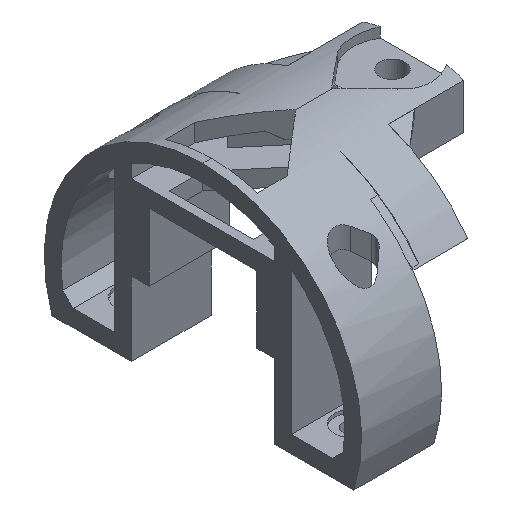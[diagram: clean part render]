
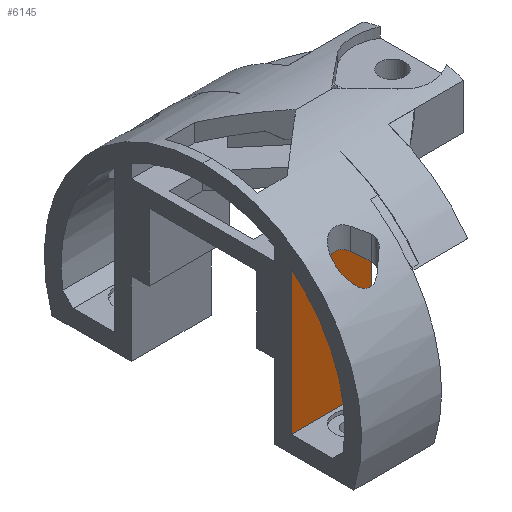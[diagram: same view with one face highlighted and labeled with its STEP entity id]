
A CAD part, isometric view. The second image highlights one B-rep face of the part: STEP entity #6145.
In plain terms, the highlighted planar face has unit normal (0, -1, 0).
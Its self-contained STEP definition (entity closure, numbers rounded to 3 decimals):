
#180 = PLANE('',#181);
#181 = AXIS2_PLACEMENT_3D('',#182,#183,#184);
#182 = CARTESIAN_POINT('',(80.,0.,0.));
#183 = DIRECTION('',(1.,0.,0.));
#184 = DIRECTION('',(-0.,0.,1.));
#611 = PLANE('',#612);
#612 = AXIS2_PLACEMENT_3D('',#613,#614,#615);
#613 = CARTESIAN_POINT('',(96.,0.,0.));
#614 = DIRECTION('',(1.,0.,0.));
#615 = DIRECTION('',(-0.,0.,1.));
#2108 = PLANE('',#2109);
#2109 = AXIS2_PLACEMENT_3D('',#2110,#2111,#2112);
#2110 = CARTESIAN_POINT('',(80.,8.5,11.));
#2111 = DIRECTION('',(0.,0.,1.));
#2112 = DIRECTION('',(1.,0.,-0.));
#2687 = VERTEX_POINT('',#2688);
#2688 = CARTESIAN_POINT('',(89.5,-10.5,11.));
#2702 = PLANE('',#2703);
#2703 = AXIS2_PLACEMENT_3D('',#2704,#2705,#2706);
#2704 = CARTESIAN_POINT('',(89.5,0.,0.));
#2705 = DIRECTION('',(1.,0.,0.));
#2706 = DIRECTION('',(-0.,0.,1.));
#2714 = EDGE_CURVE('',#2687,#2715,#2717,.T.);
#2715 = VERTEX_POINT('',#2716);
#2716 = CARTESIAN_POINT('',(96.,-10.5,11.));
#2717 = SURFACE_CURVE('',#2718,(#2722,#2729),.PCURVE_S1.);
#2718 = LINE('',#2719,#2720);
#2719 = CARTESIAN_POINT('',(80.,-10.5,11.));
#2720 = VECTOR('',#2721,1.);
#2721 = DIRECTION('',(1.,0.,-0.));
#2722 = PCURVE('',#2108,#2723);
#2723 = DEFINITIONAL_REPRESENTATION('',(#2724),#2728);
#2724 = LINE('',#2725,#2726);
#2725 = CARTESIAN_POINT('',(0.,-19.));
#2726 = VECTOR('',#2727,1.);
#2727 = DIRECTION('',(1.,0.));
#2728 = ( GEOMETRIC_REPRESENTATION_CONTEXT(2) 
PARAMETRIC_REPRESENTATION_CONTEXT() REPRESENTATION_CONTEXT('2D SPACE',''
  ) );
#2729 = PCURVE('',#2730,#2735);
#2730 = PLANE('',#2731);
#2731 = AXIS2_PLACEMENT_3D('',#2732,#2733,#2734);
#2732 = CARTESIAN_POINT('',(80.,-10.5,11.));
#2733 = DIRECTION('',(-0.,1.,0.));
#2734 = DIRECTION('',(0.,0.,1.));
#2735 = DEFINITIONAL_REPRESENTATION('',(#2736),#2740);
#2736 = LINE('',#2737,#2738);
#2737 = CARTESIAN_POINT('',(0.,0.));
#2738 = VECTOR('',#2739,1.);
#2739 = DIRECTION('',(0.,1.));
#2740 = ( GEOMETRIC_REPRESENTATION_CONTEXT(2) 
PARAMETRIC_REPRESENTATION_CONTEXT() REPRESENTATION_CONTEXT('2D SPACE',''
  ) );
#6145 = ADVANCED_FACE('',(#6146),#2730,.F.);
#6146 = FACE_BOUND('',#6147,.F.);
#6147 = EDGE_LOOP('',(#6148,#6178,#6199,#6200,#6223,#6250));
#6148 = ORIENTED_EDGE('',*,*,#6149,.T.);
#6149 = EDGE_CURVE('',#6150,#6152,#6154,.T.);
#6150 = VERTEX_POINT('',#6151);
#6151 = CARTESIAN_POINT('',(80.,-10.5,13.178));
#6152 = VERTEX_POINT('',#6153);
#6153 = CARTESIAN_POINT('',(96.,-10.5,13.178));
#6154 = SURFACE_CURVE('',#6155,(#6159,#6166),.PCURVE_S1.);
#6155 = LINE('',#6156,#6157);
#6156 = CARTESIAN_POINT('',(80.,-10.5,13.178));
#6157 = VECTOR('',#6158,1.);
#6158 = DIRECTION('',(1.,0.,0.));
#6159 = PCURVE('',#2730,#6160);
#6160 = DEFINITIONAL_REPRESENTATION('',(#6161),#6165);
#6161 = LINE('',#6162,#6163);
#6162 = CARTESIAN_POINT('',(2.178,0.));
#6163 = VECTOR('',#6164,1.);
#6164 = DIRECTION('',(0.,1.));
#6165 = ( GEOMETRIC_REPRESENTATION_CONTEXT(2) 
PARAMETRIC_REPRESENTATION_CONTEXT() REPRESENTATION_CONTEXT('2D SPACE',''
  ) );
#6166 = PCURVE('',#6167,#6172);
#6167 = CYLINDRICAL_SURFACE('',#6168,16.85);
#6168 = AXIS2_PLACEMENT_3D('',#6169,#6170,#6171);
#6169 = CARTESIAN_POINT('',(79.,0.,0.));
#6170 = DIRECTION('',(1.,0.,0.));
#6171 = DIRECTION('',(-0.,0.,1.));
#6172 = DEFINITIONAL_REPRESENTATION('',(#6173),#6177);
#6173 = LINE('',#6174,#6175);
#6174 = CARTESIAN_POINT('',(0.673,1.));
#6175 = VECTOR('',#6176,1.);
#6176 = DIRECTION('',(0.,1.));
#6177 = ( GEOMETRIC_REPRESENTATION_CONTEXT(2) 
PARAMETRIC_REPRESENTATION_CONTEXT() REPRESENTATION_CONTEXT('2D SPACE',''
  ) );
#6178 = ORIENTED_EDGE('',*,*,#6179,.T.);
#6179 = EDGE_CURVE('',#6152,#2715,#6180,.T.);
#6180 = SURFACE_CURVE('',#6181,(#6185,#6192),.PCURVE_S1.);
#6181 = LINE('',#6182,#6183);
#6182 = CARTESIAN_POINT('',(96.,-10.5,13.178));
#6183 = VECTOR('',#6184,1.);
#6184 = DIRECTION('',(0.,0.,-1.));
#6185 = PCURVE('',#2730,#6186);
#6186 = DEFINITIONAL_REPRESENTATION('',(#6187),#6191);
#6187 = LINE('',#6188,#6189);
#6188 = CARTESIAN_POINT('',(2.178,16.));
#6189 = VECTOR('',#6190,1.);
#6190 = DIRECTION('',(-1.,0.));
#6191 = ( GEOMETRIC_REPRESENTATION_CONTEXT(2) 
PARAMETRIC_REPRESENTATION_CONTEXT() REPRESENTATION_CONTEXT('2D SPACE',''
  ) );
#6192 = PCURVE('',#611,#6193);
#6193 = DEFINITIONAL_REPRESENTATION('',(#6194),#6198);
#6194 = LINE('',#6195,#6196);
#6195 = CARTESIAN_POINT('',(13.178,10.5));
#6196 = VECTOR('',#6197,1.);
#6197 = DIRECTION('',(-1.,0.));
#6198 = ( GEOMETRIC_REPRESENTATION_CONTEXT(2) 
PARAMETRIC_REPRESENTATION_CONTEXT() REPRESENTATION_CONTEXT('2D SPACE',''
  ) );
#6199 = ORIENTED_EDGE('',*,*,#2714,.F.);
#6200 = ORIENTED_EDGE('',*,*,#6201,.F.);
#6201 = EDGE_CURVE('',#6202,#2687,#6204,.T.);
#6202 = VERTEX_POINT('',#6203);
#6203 = CARTESIAN_POINT('',(89.5,-10.5,-3.8));
#6204 = SURFACE_CURVE('',#6205,(#6209,#6216),.PCURVE_S1.);
#6205 = LINE('',#6206,#6207);
#6206 = CARTESIAN_POINT('',(89.5,-10.5,-3.81));
#6207 = VECTOR('',#6208,1.);
#6208 = DIRECTION('',(0.,0.,1.));
#6209 = PCURVE('',#2730,#6210);
#6210 = DEFINITIONAL_REPRESENTATION('',(#6211),#6215);
#6211 = LINE('',#6212,#6213);
#6212 = CARTESIAN_POINT('',(-14.81,9.5));
#6213 = VECTOR('',#6214,1.);
#6214 = DIRECTION('',(1.,0.));
#6215 = ( GEOMETRIC_REPRESENTATION_CONTEXT(2) 
PARAMETRIC_REPRESENTATION_CONTEXT() REPRESENTATION_CONTEXT('2D SPACE',''
  ) );
#6216 = PCURVE('',#2702,#6217);
#6217 = DEFINITIONAL_REPRESENTATION('',(#6218),#6222);
#6218 = LINE('',#6219,#6220);
#6219 = CARTESIAN_POINT('',(-3.81,10.5));
#6220 = VECTOR('',#6221,1.);
#6221 = DIRECTION('',(1.,0.));
#6222 = ( GEOMETRIC_REPRESENTATION_CONTEXT(2) 
PARAMETRIC_REPRESENTATION_CONTEXT() REPRESENTATION_CONTEXT('2D SPACE',''
  ) );
#6223 = ORIENTED_EDGE('',*,*,#6224,.T.);
#6224 = EDGE_CURVE('',#6202,#6225,#6227,.T.);
#6225 = VERTEX_POINT('',#6226);
#6226 = CARTESIAN_POINT('',(80.,-10.5,-3.8));
#6227 = SURFACE_CURVE('',#6228,(#6232,#6239),.PCURVE_S1.);
#6228 = LINE('',#6229,#6230);
#6229 = CARTESIAN_POINT('',(80.,-10.5,-3.8));
#6230 = VECTOR('',#6231,1.);
#6231 = DIRECTION('',(-1.,-0.,0.));
#6232 = PCURVE('',#2730,#6233);
#6233 = DEFINITIONAL_REPRESENTATION('',(#6234),#6238);
#6234 = LINE('',#6235,#6236);
#6235 = CARTESIAN_POINT('',(-14.8,0.));
#6236 = VECTOR('',#6237,1.);
#6237 = DIRECTION('',(0.,-1.));
#6238 = ( GEOMETRIC_REPRESENTATION_CONTEXT(2) 
PARAMETRIC_REPRESENTATION_CONTEXT() REPRESENTATION_CONTEXT('2D SPACE',''
  ) );
#6239 = PCURVE('',#6240,#6245);
#6240 = PLANE('',#6241);
#6241 = AXIS2_PLACEMENT_3D('',#6242,#6243,#6244);
#6242 = CARTESIAN_POINT('',(80.,-30.,-3.8));
#6243 = DIRECTION('',(0.,0.,1.));
#6244 = DIRECTION('',(1.,0.,-0.));
#6245 = DEFINITIONAL_REPRESENTATION('',(#6246),#6249);
#6246 = B_SPLINE_CURVE_WITH_KNOTS('',1,(#6247,#6248),.UNSPECIFIED.,.F.,
  .F.,(2,2),(-9.5,0.),.PIECEWISE_BEZIER_KNOTS.);
#6247 = CARTESIAN_POINT('',(9.5,19.5));
#6248 = CARTESIAN_POINT('',(0.,19.5));
#6249 = ( GEOMETRIC_REPRESENTATION_CONTEXT(2) 
PARAMETRIC_REPRESENTATION_CONTEXT() REPRESENTATION_CONTEXT('2D SPACE',''
  ) );
#6250 = ORIENTED_EDGE('',*,*,#6251,.T.);
#6251 = EDGE_CURVE('',#6225,#6150,#6252,.T.);
#6252 = SURFACE_CURVE('',#6253,(#6257,#6264),.PCURVE_S1.);
#6253 = LINE('',#6254,#6255);
#6254 = CARTESIAN_POINT('',(80.,-10.5,-3.8));
#6255 = VECTOR('',#6256,1.);
#6256 = DIRECTION('',(0.,0.,1.));
#6257 = PCURVE('',#2730,#6258);
#6258 = DEFINITIONAL_REPRESENTATION('',(#6259),#6263);
#6259 = LINE('',#6260,#6261);
#6260 = CARTESIAN_POINT('',(-14.8,0.));
#6261 = VECTOR('',#6262,1.);
#6262 = DIRECTION('',(1.,0.));
#6263 = ( GEOMETRIC_REPRESENTATION_CONTEXT(2) 
PARAMETRIC_REPRESENTATION_CONTEXT() REPRESENTATION_CONTEXT('2D SPACE',''
  ) );
#6264 = PCURVE('',#180,#6265);
#6265 = DEFINITIONAL_REPRESENTATION('',(#6266),#6270);
#6266 = LINE('',#6267,#6268);
#6267 = CARTESIAN_POINT('',(-3.8,10.5));
#6268 = VECTOR('',#6269,1.);
#6269 = DIRECTION('',(1.,0.));
#6270 = ( GEOMETRIC_REPRESENTATION_CONTEXT(2) 
PARAMETRIC_REPRESENTATION_CONTEXT() REPRESENTATION_CONTEXT('2D SPACE',''
  ) );
